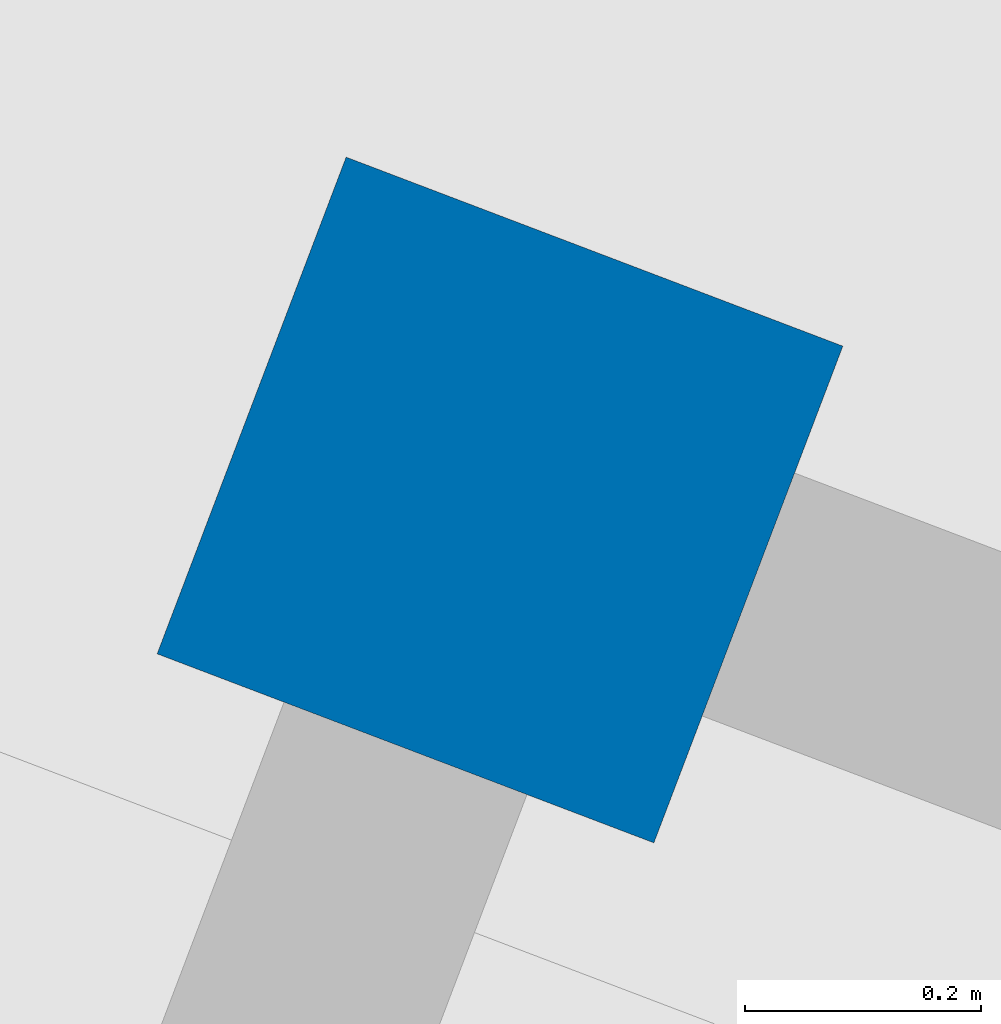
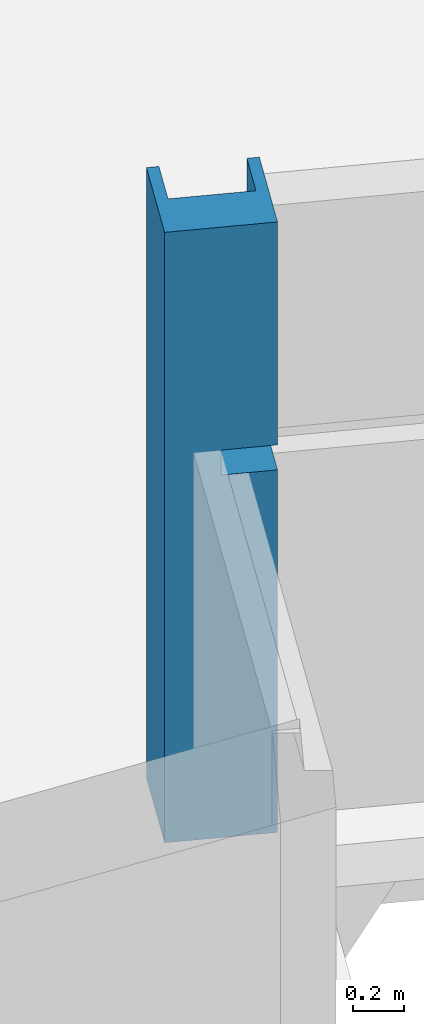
# One storey, part 8 of 11: 1 column.
"""IFC2X3 building model written with IfcOpenShell, lengths in millimetres."""

from ifc_helpers import new_model, entity, si_unit, converted_unit, derived_unit, direction, frame, origin, place, context, subcontext, project, spatial, faceted_brep, source, transform, mapped, material, type_object, type_shapes, element, save


model = new_model("IFC2X3")

# Units and contexts
model_context = context("Model", 3, precision=0.01, world=origin(), true_north=direction((6.123233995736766e-17, 1.0)))
body_context = subcontext(model_context, "Body", "Model", "MODEL_VIEW")
ifc_project = project(units=[si_unit("LENGTHUNIT", "METRE", prefix="MILLI"), converted_unit("PLANEANGLEUNIT", "DEGREE", entity("IfcPlaneAngleMeasure", 0.017453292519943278), si_unit("PLANEANGLEUNIT", "RADIAN"), dimensions=[0, 0, 0, 0, 0, 0, 0]), si_unit("AREAUNIT", "SQUARE_METRE"), derived_unit("THERMALTRANSMITTANCEUNIT", [(si_unit("MASSUNIT", "GRAM", prefix="KILO"), 1), (si_unit("THERMODYNAMICTEMPERATUREUNIT", "KELVIN"), -1), (si_unit("TIMEUNIT", "SECOND"), -3)])], contexts=[model_context])

# Site, building, storey
site_placement = place(None, frame((-72937.88054949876, 11621.45624098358, 0.0), z_axis=(0.0, 0.0, 1.0), x_axis=(0.9346418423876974, -0.35559053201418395, 0.0)))
site = spatial("IfcSite", under=ifc_project, at=site_placement, Name="Default", CompositionType="ELEMENT")
building_placement = place(site_placement, origin())
building = spatial("IfcBuilding", under=site, at=building_placement, CompositionType="ELEMENT")
storey_placement = place(building_placement, frame((0.0, 0.0, -3160.0)))
storey = spatial("IfcBuildingStorey", under=building, at=storey_placement, Name="-1 kelder", CompositionType="ELEMENT", Elevation=-3160.0)

# Column
ifc_material = material(Name="beton_gewapend_ihw")
column_type = type_object("IfcColumnType", Name="450x450mm", PredefinedType="COLUMN", material=ifc_material)
shared_shape = source(origin(), body_context, "Body", "Brep", [
    faceted_brep([(48335.0, 15225.0, -3160.0), (48335.0, 15110.0, -3160.0), (48335.0, 14890.0, -3160.0), (48335.0, 14775.0, -3160.0), (48220.0, 14775.0, -3160.0), (48000.0, 14775.0, -3160.0), (47885.0, 14775.0, -3160.0), (47885.0, 15225.0, -3160.0), (47885.0, 15225.0, -230.0), (47935.0, 15225.0, -230.0), (47935.0, 15225.0, -660.0), (48285.0, 15225.0, -660.0), (48285.0, 15225.0, -230.0), (48335.0, 15225.0, -230.0), (47885.0, 14775.0, -230.0), (48335.0, 14775.0, -1420.0), (48220.0, 14775.0, -1420.0), (48110.0, 14775.0, -1420.0), (48110.0, 14775.0, -1300.0), (48335.0, 14775.0, -1300.0), (48335.0, 14775.0, -230.0), (48335.0, 15110.0, -230.0), (48335.0, 14890.0, -230.0), (48335.0, 14890.0, -1300.0), (48335.0, 15000.0, -1300.0), (48335.0, 15000.0, -1420.0), (48335.0, 14890.0, -1420.0), (47935.0, 15000.0, -660.0), (47935.0, 15000.0, -230.0), (48285.0, 15000.0, -660.0), (48285.0, 15000.0, -230.0), (48110.0, 15000.0, -1420.0), (48110.0, 15000.0, -1300.0)], [[[0, 1, 2, 3, 4, 5, 6, 7]], [[0, 7, 8, 9, 10, 11, 12, 13]], [[7, 6, 14, 8]], [[6, 5, 4, 3, 15, 16, 17, 18, 19, 20, 14]], [[3, 2, 1, 0, 13, 21, 22, 20, 19, 23, 24, 25, 26, 15]], [[27, 10, 9, 28]], [[11, 10, 27, 29]], [[11, 29, 30, 12]], [[29, 27, 28, 30]], [[25, 31, 17, 16, 15, 26]], [[18, 32, 24, 23, 19]], [[31, 32, 18, 17]], [[32, 31, 25, 24]], [[9, 8, 14, 20, 22, 21, 13, 12, 30, 28]]]),
])
type_shapes(column_type, [shared_shape])
column_placement = place(storey_placement, frame((0.0, 0.0, 3160.0)))
element("IfcColumn", 1, at=column_placement, inside=storey, type_object=column_type, material=ifc_material, Name="28.11_SCO_BetonKolomRechthoek:450x450mm", ObjectType="28.11_SCO_BetonKolomRechthoek:450x450mm", context=body_context, shape_type="MappedRepresentation", body=[
    mapped(shared_shape, transform((0.0, 0.0, 0.0), scale=1.0)),
])

save(model, "model.ifc")
